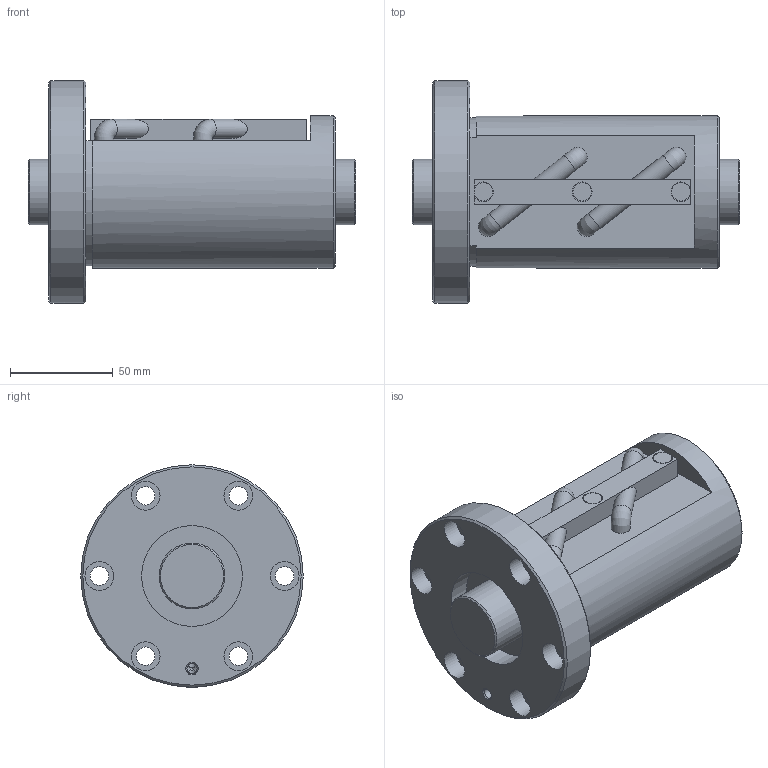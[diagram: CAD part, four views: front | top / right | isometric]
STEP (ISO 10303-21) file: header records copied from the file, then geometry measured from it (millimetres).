
FILE_DESCRIPTION(/* description */ ('STEP AP203'),/* implementation_level */ '2;1');
FILE_NAME(/* name */ 'BIF3216V-5RRG0+159LC0_000',/* time_stamp */ '2024-07-15T08:23:29+02:00',/* author */ ('License CC BY-ND 4.0'),/* organization */ ('CADENAS'),/* preprocessor_version */ 'ST-DEVELOPER v19.3',/* originating_system */ 'PARTsolutions',/* authorisation */ ' ');
FILE_SCHEMA (('CONFIG_CONTROL_DESIGN'));
Length unit declared in the file: millimetre
Products named in the file (3): BIF3216V-5RRG0+159LC0_000; BIF3216V-5RR000 Shaft; BIF3216V-5RR Nut
Assembly tree (2 placements, depth 2):
  BIF3216V-5RRG0+159LC0_000
    BIF3216V-5RR000 Shaft
    BIF3216V-5RR Nut
Bounding box: 159 x 108 x 108 mm (x, y, z)
Volume: 635268.4 mm3; surface area: 92189.1 mm2
Topology: 2 solids, 2 shells, 89 faces, 210 edges, 133 vertices
Faces by surface type: plane 41, cylinder 37, cone 7, torus 4
Full cylindrical faces by diameter (mm): 4 x3, 4.917 x1, 9 x9, 9.3 x4, 9.6 x1, 14 x6, 32 x2, 49 x2, 74 x1, 108 x1
Entity records: 2475 total; most frequent: CARTESIAN_POINT 487, DIRECTION 432, ORIENTED_EDGE 312, AXIS2_PLACEMENT_3D 194, FACE_BOUND 161, EDGE_LOOP 160, EDGE_CURVE 156, VERTEX_POINT 119
